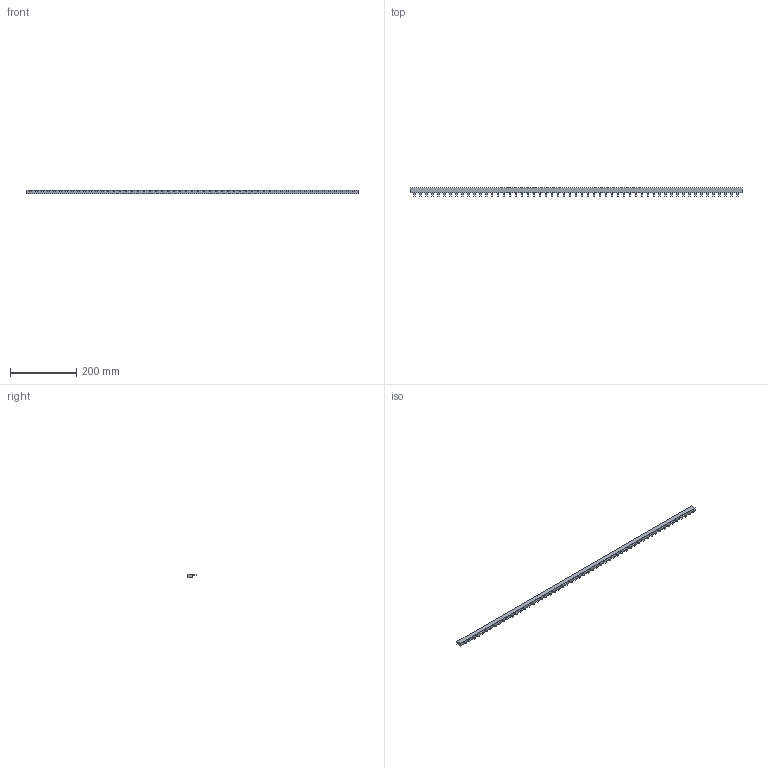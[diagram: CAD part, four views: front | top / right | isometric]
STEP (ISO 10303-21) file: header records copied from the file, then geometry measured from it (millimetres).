
FILE_DESCRIPTION (( 'STEP AP214' ), '1' );
FILE_NAME ('Øèíà 2P 1000.STEP', '2024-03-07T06:29:34', ( '' ), ( '' ), 'SwSTEP 2.0', 'SolidWorks 2018', '' );
FILE_SCHEMA (( 'AUTOMOTIVE_DESIGN' ));
Length unit declared in the file: millimetre
Products named in the file (1): 嵙縺 2P 1000
Bounding box: 1000 x 24.8 x 9.6 mm (x, y, z)
Volume: 137726.4 mm3; surface area: 53884 mm2
Topology: 1 solids, 1 shells, 281 faces, 672 edges, 448 vertices
Faces by surface type: plane 281
Entity records: 8000 total; most frequent: CARTESIAN_POINT 1402, ORIENTED_EDGE 1344, DIRECTION 1236, VECTOR 672, LINE 672, EDGE_CURVE 672, VERTEX_POINT 448, EDGE_LOOP 336
